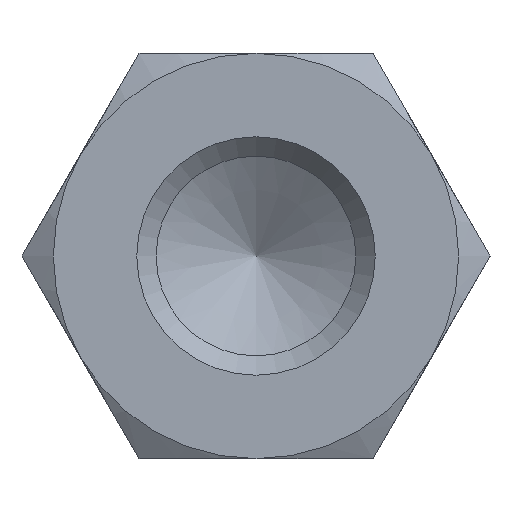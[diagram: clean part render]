
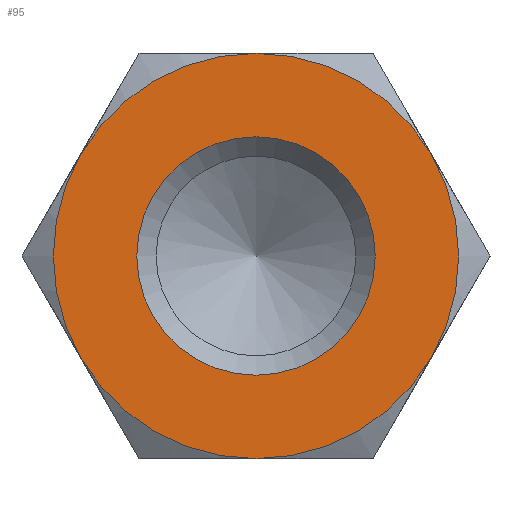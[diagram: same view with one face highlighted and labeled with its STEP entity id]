
A CAD part, left-side view. The second image highlights one B-rep face of the part: STEP entity #95.
In plain terms, the highlighted planar face has unit normal (-1, 0, 0).
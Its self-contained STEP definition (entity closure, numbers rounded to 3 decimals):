
#95 = ADVANCED_FACE( '', ( #147, #148 ), #149, .F. );
#147 = FACE_OUTER_BOUND( '', #206, .T. );
#148 = FACE_BOUND( '', #207, .T. );
#149 = PLANE( '', #208 );
#206 = EDGE_LOOP( '', ( #356, #357, #358, #359, #360, #361 ) );
#207 = EDGE_LOOP( '', ( #362 ) );
#208 = AXIS2_PLACEMENT_3D( '', #363, #364, #365 );
#356 = ORIENTED_EDGE( '', *, *, #440, .F. );
#357 = ORIENTED_EDGE( '', *, *, #425, .F. );
#358 = ORIENTED_EDGE( '', *, *, #441, .F. );
#359 = ORIENTED_EDGE( '', *, *, #437, .F. );
#360 = ORIENTED_EDGE( '', *, *, #442, .F. );
#361 = ORIENTED_EDGE( '', *, *, #443, .F. );
#362 = ORIENTED_EDGE( '', *, *, #439, .T. );
#363 = CARTESIAN_POINT( '', ( -70., 0., 0. ) );
#364 = DIRECTION( '', ( 1., 0., 0. ) );
#365 = DIRECTION( '', ( 0., 0., -1. ) );
#425 = EDGE_CURVE( '', #495, #493, #497, .T. );
#437 = EDGE_CURVE( '', #447, #506, #513, .T. );
#439 = EDGE_CURVE( '', #516, #516, #517, .T. );
#440 = EDGE_CURVE( '', #493, #486, #518, .T. );
#441 = EDGE_CURVE( '', #506, #495, #519, .T. );
#442 = EDGE_CURVE( '', #481, #447, #520, .T. );
#443 = EDGE_CURVE( '', #486, #481, #521, .T. );
#447 = VERTEX_POINT( '', #525 );
#481 = VERTEX_POINT( '', #607 );
#486 = VERTEX_POINT( '', #623 );
#493 = VERTEX_POINT( '', #650 );
#495 = VERTEX_POINT( '', #657 );
#497 = CIRCLE( '', #664, 8.5 );
#506 = VERTEX_POINT( '', #690 );
#513 = CIRCLE( '', #733, 8.5 );
#516 = VERTEX_POINT( '', #736 );
#517 = CIRCLE( '', #737, 5. );
#518 = CIRCLE( '', #738, 8.5 );
#519 = CIRCLE( '', #739, 8.5 );
#520 = CIRCLE( '', #740, 8.5 );
#521 = CIRCLE( '', #741, 8.5 );
#525 = CARTESIAN_POINT( '', ( -70., -7.361, 4.25 ) );
#607 = CARTESIAN_POINT( '', ( -70., 0., 8.5 ) );
#623 = CARTESIAN_POINT( '', ( -70., 7.361, 4.25 ) );
#650 = CARTESIAN_POINT( '', ( -70., 7.361, -4.25 ) );
#657 = CARTESIAN_POINT( '', ( -70., 0., -8.5 ) );
#664 = AXIS2_PLACEMENT_3D( '', #776, #777, #778 );
#690 = CARTESIAN_POINT( '', ( -70., -7.361, -4.25 ) );
#733 = AXIS2_PLACEMENT_3D( '', #781, #782, #783 );
#736 = CARTESIAN_POINT( '', ( -70., 0., -5. ) );
#737 = AXIS2_PLACEMENT_3D( '', #787, #788, #789 );
#738 = AXIS2_PLACEMENT_3D( '', #790, #791, #792 );
#739 = AXIS2_PLACEMENT_3D( '', #793, #794, #795 );
#740 = AXIS2_PLACEMENT_3D( '', #796, #797, #798 );
#741 = AXIS2_PLACEMENT_3D( '', #799, #800, #801 );
#776 = CARTESIAN_POINT( '', ( -70., 0., 0. ) );
#777 = DIRECTION( '', ( 1., 0., 0. ) );
#778 = DIRECTION( '', ( 0., 0., -1. ) );
#781 = CARTESIAN_POINT( '', ( -70., 0., 0. ) );
#782 = DIRECTION( '', ( 1., 0., 0. ) );
#783 = DIRECTION( '', ( 0., 0., -1. ) );
#787 = CARTESIAN_POINT( '', ( -70., 0., 0. ) );
#788 = DIRECTION( '', ( 1., 0., 0. ) );
#789 = DIRECTION( '', ( 0., 0., -1. ) );
#790 = CARTESIAN_POINT( '', ( -70., 0., 0. ) );
#791 = DIRECTION( '', ( 1., 0., 0. ) );
#792 = DIRECTION( '', ( 0., 0., -1. ) );
#793 = CARTESIAN_POINT( '', ( -70., 0., 0. ) );
#794 = DIRECTION( '', ( 1., 0., 0. ) );
#795 = DIRECTION( '', ( 0., 0., -1. ) );
#796 = CARTESIAN_POINT( '', ( -70., 0., 0. ) );
#797 = DIRECTION( '', ( 1., 0., 0. ) );
#798 = DIRECTION( '', ( 0., 0., -1. ) );
#799 = CARTESIAN_POINT( '', ( -70., 0., 0. ) );
#800 = DIRECTION( '', ( 1., 0., 0. ) );
#801 = DIRECTION( '', ( 0., 0., -1. ) );
